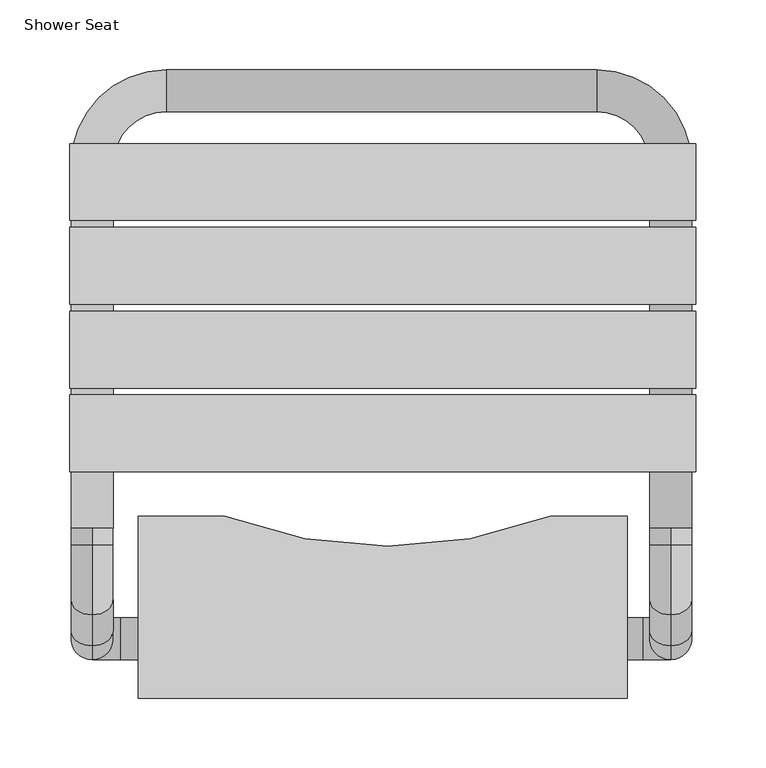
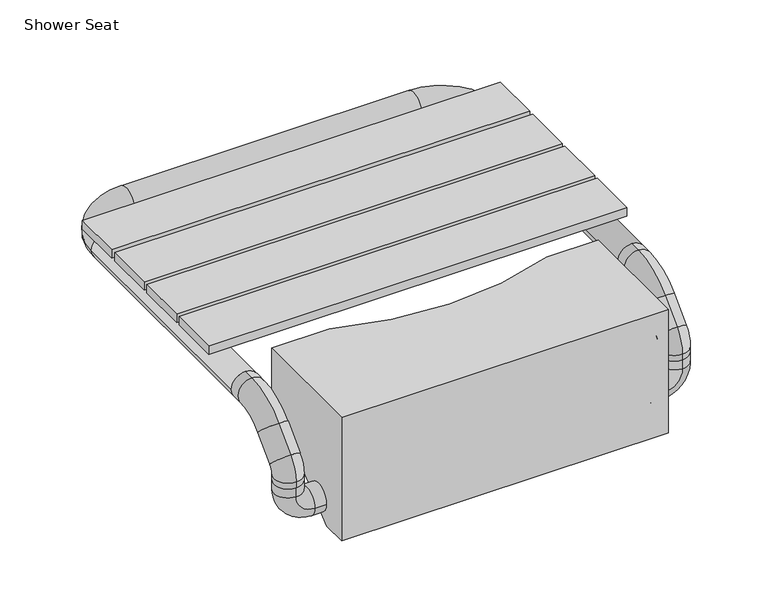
"""IFC4 building model written with IfcOpenShell, lengths in millimetres: flow terminal geometry, Shower - Disabled  Seat : Shower Seat."""

from ifc_helpers import new_model, si_unit, point, frame, origin, place, context, project, spatial, polyline, circle_curve, ellipse_curve, trimmed, outline, extrude, source, transform, mapped, element, save
from ifc_brep_helpers import plane_surface, cylinder_surface, revolved_surface, advanced_brep


def shower_seat_e35f25db(model_context):
    return source(origin(), model_context, "Body", "SolidModel", [
        extrude(outline(polyline([(224.1757274, 216.8780394), (224.1757274, 161.8780394), (-223.8242726, 161.8780394), (-223.8242726, 216.8780394), (224.1757274, 216.8780394)])), frame((0.0, 0.0, 570.4761319), z_axis=(0.0, 0.0, 1.0), x_axis=(1.0, 0.0, 0.0)), (0.0, 0.0, 1.0), 9.5238681),
        extrude(outline(polyline([(224.1757274, 276.8780394), (224.1757274, 221.8780394), (-223.8242726, 221.8780394), (-223.8242726, 276.8780394), (224.1757274, 276.8780394)])), frame((0.0, 0.0, 570.4761319), z_axis=(0.0, 0.0, 1.0), x_axis=(1.0, 0.0, 0.0)), (0.0, 0.0, 1.0), 9.5238681),
        extrude(outline(polyline([(224.1757274, 336.8780394), (224.1757274, 281.8780394), (-223.8242726, 281.8780394), (-223.8242726, 336.8780394), (224.1757274, 336.8780394)])), frame((0.0, 0.0, 570.4761319), z_axis=(0.0, 0.0, 1.0), x_axis=(1.0, 0.0, 0.0)), (0.0, 0.0, 1.0), 9.5238681),
        extrude(outline(polyline([(224.1757274, 396.5053839), (224.1757274, 341.8780394), (-223.8242726, 341.8780394), (-223.8242726, 396.5053839), (224.1757274, 396.5053839)])), frame((0.0, 0.0, 570.4761319), z_axis=(0.0, 0.0, 1.0), x_axis=(1.0, 0.0, 0.0)), (0.0, 0.0, 1.0), 9.5238681),
        advanced_brep(
        [(174.950484, 0.0, 440.0), (174.950484, 27.6199754, 440.0), (174.950484, 39.8251892, 450.2413904), (174.950484, 27.5053839, 465.0), (174.950484, 57.505188, 465.0766709), (174.950484, 130.0, 525.9070409), (174.950484, 130.0, 580.0), (174.950484, 0.0, 580.0), (-174.950484, 0.0, 440.0), (-174.950484, 0.0, 580.0), (-174.950484, 130.0, 580.0), (-174.950484, 130.0, 525.9070409), (-174.950484, 57.505188, 465.0766709), (-174.950484, 27.5053839, 465.0), (-174.950484, 39.8251892, 450.2413904), (-174.950484, 27.6199754, 440.0), (119.8551, 130.0, 525.9070409), (-112.9496549, 130.0, 525.9070409), (119.8551, 130.0, 580.0), (-112.9496549, 130.0, 580.0), (-207.950484, 27.5053839, 495.0), (-207.950484, 27.5053839, 485.0), (-207.950484, 57.5053839, 485.0), (-207.950484, 57.5053839, 495.0), (-187.950484, 27.5053839, 465.0), (-187.950484, 57.5053839, 465.0), (186.049516, 27.5053839, 465.0), (186.049516, 57.5053839, 465.0), (206.049516, 27.5053839, 485.0), (206.049516, 57.5053839, 485.0), (206.049516, 27.5053839, 495.0), (206.049516, 57.5053839, 495.0), (206.049516, 121.5053839, 540.0), (206.049516, 109.6499656, 540.0), (206.049516, 109.6499656, 570.0), (206.049516, 121.5053839, 570.0), (191.049516, 121.5053839, 555.0), (221.049516, 121.5053839, 555.0), (-207.950484, 121.5053839, 540.0), (-207.950484, 109.6499656, 540.0), (-207.950484, 109.6499656, 570.0), (-207.950484, 121.5053839, 570.0), (-222.950484, 121.5053839, 555.0), (-192.950484, 121.5053839, 555.0), (206.049516, 81.0496989, 527.9647053), (206.049516, 59.5994988, 548.9382342), (-207.950484, 81.0496989, 527.9647053), (-207.950484, 59.5994988, 548.9382342), (206.049516, 58.9303506, 505.3426446), (206.049516, 37.4801505, 526.3161735), (-207.950484, 58.9303506, 505.3426446), (-207.950484, 37.4801505, 526.3161735), (206.049516, 57.5053839, 501.8470564), (206.049516, 27.5053839, 501.8470564), (-207.950484, 57.5053839, 501.8470564), (-207.950484, 27.5053839, 501.8470564), (-192.950484, 381.5053839, 555.0), (-222.950484, 381.5053839, 555.0), (-154.950484, 419.5053839, 555.0), (-154.950484, 449.5053839, 555.0), (153.049516, 419.5053839, 555.0), (153.049516, 449.5053839, 555.0), (191.049516, 381.5053839, 555.0), (221.049516, 381.5053839, 555.0)],
        [
            (0, 1),
            (1, 2),
            (2, 3, circle_curve(frame((174.950484, 42.5053839, 465.0), z_axis=(-1.0, 0.0, 0.0), x_axis=(0.0, 1.0, 0.0)), 15.0)),
            (3, 4, circle_curve(frame((174.950484, 42.5053839, 465.0), z_axis=(-1.0, 0.0, 0.0), x_axis=(0.0, 1.0, 0.0)), 15.0)),
            (4, 5),
            (5, 6),
            (6, 7),
            (7, 0),
            (8, 9),
            (9, 10),
            (10, 11),
            (11, 12),
            (12, 13, circle_curve(frame((-174.950484, 42.5053839, 465.0), z_axis=(1.0, 0.0, 0.0), x_axis=(0.0, 1.0, 0.0)), 15.0)),
            (13, 14, circle_curve(frame((-174.950484, 42.5053839, 465.0), z_axis=(1.0, 0.0, 0.0), x_axis=(0.0, 1.0, 0.0)), 15.0)),
            (14, 15),
            (15, 8),
            (0, 8),
            (15, 1),
            (14, 2),
            (16, 5),
            (4, 12),
            (11, 17),
            (17, 16, ellipse_curve(frame((3.4527225, 439.0287342, 785.2129378), z_axis=(0.0, -0.6427876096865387, 0.7660444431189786), x_axis=(0.0, 0.7660444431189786, 0.6427876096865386)), 431.0775715, 330.2245782)),
            (16, 18),
            (18, 6),
            (10, 19),
            (19, 17),
            (18, 19, circle_curve(frame((3.4527225, 439.0287342, 580.0), z_axis=(0.0, 0.0, -1.0), x_axis=(1.0, 0.0, 0.0)), 330.2245782)),
            (9, 7),
            (20, 21),
            (21, 22, circle_curve(frame((-207.950484, 42.5053839, 485.0), z_axis=(0.0, 0.0, 1.0), x_axis=(0.0, 1.0, 0.0)), 15.0)),
            (22, 23),
            (23, 20, circle_curve(frame((-207.950484, 42.5053839, 495.0), z_axis=(0.0, 0.0, -1.0), x_axis=(0.0, 1.0, 0.0)), 15.0)),
            (20, 23, circle_curve(frame((-207.950484, 42.5053839, 495.0), z_axis=(0.0, 0.0, -1.0), x_axis=(0.0, 1.0, 0.0)), 15.0)),
            (22, 21, circle_curve(frame((-207.950484, 42.5053839, 485.0), z_axis=(0.0, 0.0, 1.0), x_axis=(0.0, 1.0, 0.0)), 15.0)),
            (21, 24, circle_curve(frame((-187.950484, 27.5053839, 485.0), z_axis=(0.0, -1.0, 0.0), x_axis=(-1.0, 0.0, 0.0)), 20.0)),
            (24, 25, circle_curve(frame((-187.950484, 42.5053839, 465.0), z_axis=(-1.0, 0.0, 0.0), x_axis=(0.0, 1.0, 0.0)), 15.0)),
            (25, 22, circle_curve(frame((-187.950484, 57.5053839, 485.0), z_axis=(0.0, 1.0, 0.0), x_axis=(-1.0, 0.0, 0.0)), 20.0)),
            (25, 24, circle_curve(frame((-187.950484, 42.5053839, 465.0), z_axis=(-1.0, 0.0, 0.0), x_axis=(0.0, 1.0, 0.0)), 15.0)),
            (24, 13),
            (12, 25),
            (26, 27, circle_curve(frame((186.049516, 42.5053839, 465.0), z_axis=(-1.0, 0.0, 0.0), x_axis=(0.0, 1.0, 0.0)), 15.0)),
            (27, 4),
            (3, 26),
            (27, 26, circle_curve(frame((186.049516, 42.5053839, 465.0), z_axis=(-1.0, 0.0, 0.0), x_axis=(0.0, 1.0, 0.0)), 15.0)),
            (26, 28, circle_curve(frame((186.049516, 27.5053839, 485.0), z_axis=(0.0, -1.0, 0.0), x_axis=(0.0, 0.0, -1.0)), 20.0)),
            (28, 29, circle_curve(frame((206.049516, 42.5053839, 485.0), z_axis=(0.0, 0.0, -1.0), x_axis=(0.0, 1.0, 0.0)), 15.0)),
            (29, 27, circle_curve(frame((186.049516, 57.5053839, 485.0), z_axis=(0.0, 1.0, 0.0), x_axis=(0.0, 0.0, -1.0)), 20.0)),
            (29, 28, circle_curve(frame((206.049516, 42.5053839, 485.0), z_axis=(0.0, 0.0, -1.0), x_axis=(0.0, 1.0, 0.0)), 15.0)),
            (28, 30),
            (30, 31, circle_curve(frame((206.049516, 42.5053839, 495.0), z_axis=(0.0, 0.0, -1.0), x_axis=(0.0, 1.0, 0.0)), 15.0)),
            (31, 29),
            (31, 30, circle_curve(frame((206.049516, 42.5053839, 495.0), z_axis=(0.0, 0.0, -1.0), x_axis=(0.0, 1.0, 0.0)), 15.0)),
            (32, 33),
            (33, 34, circle_curve(frame((206.049516, 109.6499656, 555.0), z_axis=(0.0, 1.0, 0.0), x_axis=(0.0, 0.0, 1.0)), 15.0)),
            (34, 35),
            (35, 36, circle_curve(frame((206.049516, 121.5053839, 555.0), z_axis=(0.0, -1.0, 0.0), x_axis=(0.0, 0.0, 1.0)), 15.0)),
            (36, 32, circle_curve(frame((206.049516, 121.5053839, 555.0), z_axis=(0.0, -1.0, 0.0), x_axis=(0.0, 0.0, 1.0)), 15.0)),
            (32, 37, circle_curve(frame((206.049516, 121.5053839, 555.0), z_axis=(0.0, -1.0, 0.0), x_axis=(0.0, 0.0, 1.0)), 15.0)),
            (37, 35, circle_curve(frame((206.049516, 121.5053839, 555.0), z_axis=(0.0, -1.0, 0.0), x_axis=(0.0, 0.0, 1.0)), 15.0)),
            (34, 33, circle_curve(frame((206.049516, 109.6499656, 555.0), z_axis=(0.0, 1.0, 0.0), x_axis=(0.0, 0.0, 1.0)), 15.0)),
            (38, 39),
            (39, 40, circle_curve(frame((-207.950484, 109.6499656, 555.0), z_axis=(0.0, 1.0, 0.0), x_axis=(0.0, 0.0, 1.0)), 15.0)),
            (40, 41),
            (41, 42, circle_curve(frame((-207.950484, 121.5053839, 555.0), z_axis=(0.0, -1.0, 0.0), x_axis=(0.0, 0.0, 1.0)), 15.0)),
            (42, 38, circle_curve(frame((-207.950484, 121.5053839, 555.0), z_axis=(0.0, -1.0, 0.0), x_axis=(0.0, 0.0, 1.0)), 15.0)),
            (38, 43, circle_curve(frame((-207.950484, 121.5053839, 555.0), z_axis=(0.0, -1.0, 0.0), x_axis=(0.0, 0.0, 1.0)), 15.0)),
            (43, 41, circle_curve(frame((-207.950484, 121.5053839, 555.0), z_axis=(0.0, -1.0, 0.0), x_axis=(0.0, 0.0, 1.0)), 15.0)),
            (40, 39, circle_curve(frame((-207.950484, 109.6499656, 555.0), z_axis=(0.0, 1.0, 0.0), x_axis=(0.0, 0.0, 1.0)), 15.0)),
            (33, 44, circle_curve(frame((206.049516, 109.6499656, 500.0), z_axis=(1.0, 0.0, 0.0), x_axis=(0.0, 0.0, 1.0)), 40.0)),
            (44, 45, circle_curve(frame((206.049516, 70.3245988, 538.4514698), z_axis=(0.0, 0.6991176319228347, 0.7150066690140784), x_axis=(0.0, -0.7150066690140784, 0.6991176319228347)), 15.0)),
            (45, 34, circle_curve(frame((206.049516, 109.6499656, 500.0), z_axis=(-1.0, 0.0, 0.0), x_axis=(0.0, 0.0, 1.0)), 70.0)),
            (45, 44, circle_curve(frame((206.049516, 70.3245988, 538.4514698), z_axis=(0.0, 0.699117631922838, 0.7150066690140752), x_axis=(0.0, -0.7150066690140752, 0.699117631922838)), 15.0)),
            (39, 46, circle_curve(frame((-207.950484, 109.6499656, 500.0), z_axis=(1.0, 0.0, 0.0), x_axis=(0.0, 0.0, 1.0)), 40.0)),
            (46, 47, circle_curve(frame((-207.950484, 70.3245988, 538.4514698), z_axis=(0.0, 0.6991176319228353, 0.7150066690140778), x_axis=(0.0, -0.7150066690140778, 0.6991176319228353)), 15.0)),
            (47, 40, circle_curve(frame((-207.950484, 109.6499656, 500.0), z_axis=(-1.0, 0.0, 0.0), x_axis=(0.0, 0.0, 1.0)), 70.0)),
            (47, 46, circle_curve(frame((-207.950484, 70.3245988, 538.4514698), z_axis=(0.0, 0.6991176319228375, 0.7150066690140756), x_axis=(0.0, -0.7150066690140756, 0.6991176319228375)), 15.0)),
            (44, 48),
            (48, 49, circle_curve(frame((206.049516, 48.2052506, 515.829409), z_axis=(0.0, 0.6991176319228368, 0.7150066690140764), x_axis=(0.0, -0.7150066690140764, 0.6991176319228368)), 15.0)),
            (49, 45),
            (49, 48, circle_curve(frame((206.049516, 48.2052506, 515.829409), z_axis=(0.0, 0.6991176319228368, 0.7150066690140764), x_axis=(0.0, -0.7150066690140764, 0.6991176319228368)), 15.0)),
            (46, 50),
            (50, 51, circle_curve(frame((-207.950484, 48.2052506, 515.829409), z_axis=(0.0, 0.6991176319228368, 0.7150066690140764), x_axis=(0.0, -0.7150066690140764, 0.6991176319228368)), 15.0)),
            (51, 47),
            (51, 50, circle_curve(frame((-207.950484, 48.2052506, 515.829409), z_axis=(0.0, 0.6991176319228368, 0.7150066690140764), x_axis=(0.0, -0.7150066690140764, 0.6991176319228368)), 15.0)),
            (48, 52, circle_curve(frame((206.049516, 62.5053839, 501.8470564), z_axis=(1.0, 0.0, 0.0), x_axis=(0.0, -0.7150066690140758, 0.6991176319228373)), 5.0)),
            (52, 53, circle_curve(frame((206.049516, 42.5053839, 501.8470564), z_axis=(0.0, 0.0, 0.9999999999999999), x_axis=(0.0, -0.9999999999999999, 0.0)), 15.0)),
            (53, 49, circle_curve(frame((206.049516, 62.5053839, 501.8470564), z_axis=(-1.0, 0.0, 0.0), x_axis=(0.0, -0.7150066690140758, 0.6991176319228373)), 35.0)),
            (53, 52, circle_curve(frame((206.049516, 42.5053839, 501.8470564), z_axis=(0.0, 0.0, 1.0), x_axis=(0.0, -1.0, 0.0)), 15.0)),
            (50, 54, circle_curve(frame((-207.950484, 62.5053839, 501.8470564), z_axis=(1.0, 0.0, 0.0), x_axis=(0.0, -0.7150066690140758, 0.6991176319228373)), 5.0)),
            (54, 55, circle_curve(frame((-207.950484, 42.5053839, 501.8470564), z_axis=(0.0, 0.0, 1.0), x_axis=(0.0, -1.0, 0.0)), 15.0)),
            (55, 51, circle_curve(frame((-207.950484, 62.5053839, 501.8470564), z_axis=(-1.0, 0.0, 0.0), x_axis=(0.0, -0.7150066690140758, 0.6991176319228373)), 35.0)),
            (55, 54, circle_curve(frame((-207.950484, 42.5053839, 501.8470564), z_axis=(0.0, 0.0, 1.0), x_axis=(0.0, -1.0, 0.0)), 15.0)),
            (52, 31),
            (30, 53),
            (54, 23),
            (20, 55),
            (43, 56),
            (56, 57, circle_curve(frame((-207.950484, 381.5053839, 555.0), z_axis=(0.0, -1.0, 0.0), x_axis=(-1.0, 0.0, 0.0)), 15.0)),
            (57, 42),
            (57, 56, circle_curve(frame((-207.950484, 381.5053839, 555.0), z_axis=(0.0, -1.0, 0.0), x_axis=(-1.0, 0.0, 0.0)), 15.0)),
            (56, 58, circle_curve(frame((-154.950484, 381.5053839, 555.0), z_axis=(0.0, 0.0, -1.0), x_axis=(-1.0, 0.0, 0.0)), 38.0)),
            (58, 59, circle_curve(frame((-154.950484, 434.5053839, 555.0), z_axis=(-1.0, 0.0, 0.0), x_axis=(0.0, 1.0, 0.0)), 15.0)),
            (59, 57, circle_curve(frame((-154.950484, 381.5053839, 555.0), z_axis=(0.0, 0.0, 1.0), x_axis=(-1.0, 0.0, 0.0)), 68.0)),
            (59, 58, circle_curve(frame((-154.950484, 434.5053839, 555.0), z_axis=(-1.0, 0.0, 0.0), x_axis=(0.0, 1.0, 0.0)), 15.0)),
            (58, 60),
            (60, 61, circle_curve(frame((153.049516, 434.5053839, 555.0), z_axis=(-1.0, 0.0, 0.0), x_axis=(0.0, 1.0, 0.0)), 15.0)),
            (61, 59),
            (61, 60, circle_curve(frame((153.049516, 434.5053839, 555.0), z_axis=(-1.0, 0.0, 0.0), x_axis=(0.0, 1.0, 0.0)), 15.0)),
            (60, 62, circle_curve(frame((153.049516, 381.5053839, 555.0), z_axis=(0.0, 0.0, -1.0), x_axis=(0.0, 1.0, 0.0)), 38.0)),
            (62, 63, circle_curve(frame((206.049516, 381.5053839, 555.0), z_axis=(0.0, 1.0, 0.0), x_axis=(1.0, 0.0, 0.0)), 15.0)),
            (63, 61, circle_curve(frame((153.049516, 381.5053839, 555.0), z_axis=(0.0, 0.0, 1.0), x_axis=(0.0, 1.0, 0.0)), 68.0)),
            (63, 62, circle_curve(frame((206.049516, 381.5053839, 555.0), z_axis=(0.0, 1.0, 0.0), x_axis=(1.0, 0.0, 0.0)), 15.0)),
            (62, 36),
            (37, 63),
        ],
        [
            plane_surface(frame((174.950484, 0.0, 440.0), z_axis=(1.0, 0.0, 0.0), x_axis=(0.0, 1.0, 0.0))),
            plane_surface(frame((-174.950484, 0.0, 440.0), z_axis=(-1.0, 0.0, 0.0), x_axis=(0.0, -1.0, 0.0))),
            plane_surface(frame((174.950484, 0.0, 440.0), z_axis=(0.0, 0.0, -1.0), x_axis=(-1.0, 0.0, 0.0))),
            plane_surface(frame((174.950484, 27.6199754, 440.0), z_axis=(0.0, 0.6427876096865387, -0.7660444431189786), x_axis=(-1.0, 0.0, 0.0))),
            plane_surface(frame((174.950484, 130.0, 525.9070409), z_axis=(0.0, 1.0, 0.0), x_axis=(-1.0, 0.0, 0.0))),
            plane_surface(frame((174.950484, 130.0, 580.0), z_axis=(0.0, 0.0, 1.0), x_axis=(-1.0, 0.0, 0.0))),
            plane_surface(frame((174.950484, 0.0, 580.0), z_axis=(0.0, -1.0, 0.0), x_axis=(-1.0, 0.0, 0.0))),
            revolved_surface(polyline([(333.6773007, 439.0287342, 1062.304259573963), (333.6773007, 439.0287342, 508.12161602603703)]), (3.4527225, 439.0287342, 440.0), (0.0, 0.0, 1.0)),
            cylinder_surface(frame((-207.950484, 42.5053839, 495.0), z_axis=(0.0, 0.0, 1.0), x_axis=(0.0, 1.0, 0.0)), 15.0),
            revolved_surface(trimmed(ellipse_curve(frame((-207.950484, 42.5053839, 485.0), z_axis=(0.0, 0.0, 1.0), x_axis=(0.0, 1.0, 0.0)), 15.0, 15.0), [point((-207.950484, 27.5053839, 485.0))], [point((-207.950484, 57.5053839, 485.0))], True, "CARTESIAN"), (-187.950484, 42.5053839, 485.0), (0.0, -1.0, 0.0)),
            revolved_surface(trimmed(ellipse_curve(frame((-207.950484, 42.5053839, 485.0), z_axis=(0.0, 0.0, 1.0), x_axis=(0.0, 1.0, 0.0)), 15.0, 15.0), [point((-207.950484, 57.5053839, 485.0))], [point((-207.950484, 27.5053839, 485.0))], True, "CARTESIAN"), (-187.950484, 42.5053839, 485.0), (0.0, -1.0, 0.0)),
            cylinder_surface(frame((-187.950484, 42.5053839, 465.0), z_axis=(-1.0, 0.0, 0.0), x_axis=(0.0, 1.0, 0.0)), 15.0),
            revolved_surface(trimmed(ellipse_curve(frame((186.049516, 42.5053839, 465.0), z_axis=(-1.0, 0.0, 0.0), x_axis=(0.0, 1.0, 0.0)), 15.0, 15.0), [point((186.049516, 27.5053839, 465.0))], [point((186.049516, 57.5053839, 465.0))], True, "CARTESIAN"), (186.049516, 42.5053839, 485.0), (0.0, -1.0, 0.0)),
            revolved_surface(trimmed(ellipse_curve(frame((186.049516, 42.5053839, 465.0), z_axis=(-1.0, 0.0, 0.0), x_axis=(0.0, 1.0, 0.0)), 15.0, 15.0), [point((186.049516, 57.5053839, 465.0))], [point((186.049516, 27.5053839, 465.0))], True, "CARTESIAN"), (186.049516, 42.5053839, 485.0), (0.0, -1.0, 0.0)),
            cylinder_surface(frame((206.049516, 42.5053839, 485.0), z_axis=(0.0, 0.0, -1.0), x_axis=(0.0, 1.0, 0.0)), 15.0),
            cylinder_surface(frame((206.049516, 121.5053839, 555.0), z_axis=(0.0, 1.0, 0.0), x_axis=(0.0, 0.0, 1.0)), 15.0),
            cylinder_surface(frame((-207.950484, 121.5053839, 555.0), z_axis=(0.0, 1.0, 0.0), x_axis=(0.0, 0.0, 1.0)), 15.0),
            revolved_surface(trimmed(ellipse_curve(frame((206.049516, 109.6499656, 555.0), z_axis=(0.0, 1.0, 0.0), x_axis=(0.0, 0.0, 1.0)), 15.0, 15.0), [point((206.049516, 109.6499656, 540.0))], [point((206.049516, 109.6499656, 570.0))], True, "CARTESIAN"), (206.049516, 109.6499656, 500.0), (1.0, 0.0, 0.0)),
            revolved_surface(trimmed(ellipse_curve(frame((206.049516, 109.6499656, 555.0), z_axis=(0.0, 1.0, 0.0), x_axis=(0.0, 0.0, 1.0)), 15.0, 15.0), [point((206.049516, 109.6499656, 570.0))], [point((206.049516, 109.6499656, 540.0))], True, "CARTESIAN"), (206.049516, 109.6499656, 500.0), (1.0, 0.0, 0.0)),
            revolved_surface(trimmed(ellipse_curve(frame((-207.950484, 109.6499656, 555.0), z_axis=(0.0, 1.0, 0.0), x_axis=(0.0, 0.0, 1.0)), 15.0, 15.0), [point((-207.950484, 109.6499656, 540.0))], [point((-207.950484, 109.6499656, 570.0))], True, "CARTESIAN"), (206.049516, 109.6499656, 500.0), (1.0, 0.0, 0.0)),
            revolved_surface(trimmed(ellipse_curve(frame((-207.950484, 109.6499656, 555.0), z_axis=(0.0, 1.0, 0.0), x_axis=(0.0, 0.0, 1.0)), 15.0, 15.0), [point((-207.950484, 109.6499656, 570.0))], [point((-207.950484, 109.6499656, 540.0))], True, "CARTESIAN"), (206.049516, 109.6499656, 500.0), (1.0, 0.0, 0.0)),
            cylinder_surface(frame((206.049516, 70.3245988, 538.4514698), z_axis=(0.0, 0.6991176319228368, 0.7150066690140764), x_axis=(0.0, -0.7150066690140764, 0.6991176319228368)), 15.0),
            cylinder_surface(frame((-207.950484, 70.3245988, 538.4514698), z_axis=(0.0, 0.6991176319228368, 0.7150066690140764), x_axis=(0.0, -0.7150066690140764, 0.6991176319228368)), 15.0),
            revolved_surface(trimmed(ellipse_curve(frame((206.049516, 48.2052506, 515.829409), z_axis=(0.0, 0.6991176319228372, 0.715006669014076), x_axis=(0.0, -0.715006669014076, 0.6991176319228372)), 15.0, 15.0), [point((206.049516, 58.9303506, 505.3426446))], [point((206.049516, 37.4801505, 526.3161735))], True, "CARTESIAN"), (206.049516, 62.5053839, 501.8470564), (1.0, 0.0, 0.0)),
            revolved_surface(trimmed(ellipse_curve(frame((206.049516, 48.2052506, 515.829409), z_axis=(0.0, 0.6991176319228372, 0.715006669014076), x_axis=(0.0, -0.715006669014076, 0.6991176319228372)), 15.0, 15.0), [point((206.049516, 37.4801505, 526.3161735))], [point((206.049516, 58.9303506, 505.3426446))], True, "CARTESIAN"), (206.049516, 62.5053839, 501.8470564), (1.0, 0.0, 0.0)),
            revolved_surface(trimmed(ellipse_curve(frame((-207.950484, 48.2052506, 515.829409), z_axis=(0.0, 0.6991176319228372, 0.715006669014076), x_axis=(0.0, -0.715006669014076, 0.6991176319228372)), 15.0, 15.0), [point((-207.950484, 58.9303506, 505.3426446))], [point((-207.950484, 37.4801505, 526.3161735))], True, "CARTESIAN"), (206.049516, 62.5053839, 501.8470564), (1.0, 0.0, 0.0)),
            revolved_surface(trimmed(ellipse_curve(frame((-207.950484, 48.2052506, 515.829409), z_axis=(0.0, 0.6991176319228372, 0.715006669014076), x_axis=(0.0, -0.715006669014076, 0.6991176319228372)), 15.0, 15.0), [point((-207.950484, 37.4801505, 526.3161735))], [point((-207.950484, 58.9303506, 505.3426446))], True, "CARTESIAN"), (206.049516, 62.5053839, 501.8470564), (1.0, 0.0, 0.0)),
            cylinder_surface(frame((206.049516, 42.5053839, 501.8470564), z_axis=(0.0, 0.0, 1.0), x_axis=(0.0, -1.0, 0.0)), 15.0),
            cylinder_surface(frame((-207.950484, 42.5053839, 501.8470564), z_axis=(0.0, 0.0, 1.0), x_axis=(0.0, -1.0, 0.0)), 15.0),
            cylinder_surface(frame((-207.950484, 121.5053839, 555.0), z_axis=(0.0, -1.0, 0.0), x_axis=(-1.0, 0.0, 0.0)), 15.0),
            revolved_surface(trimmed(ellipse_curve(frame((-207.950484, 381.5053839, 555.0), z_axis=(0.0, -1.0, 0.0), x_axis=(-1.0, 0.0, 0.0)), 15.0, 15.0), [point((-192.950484, 381.5053839, 555.0))], [point((-222.950484, 381.5053839, 555.0))], True, "CARTESIAN"), (-154.950484, 381.5053839, 555.0), (0.0, 0.0, -1.0)),
            revolved_surface(trimmed(ellipse_curve(frame((-207.950484, 381.5053839, 555.0), z_axis=(0.0, -1.0, 0.0), x_axis=(-1.0, 0.0, 0.0)), 15.0, 15.0), [point((-222.950484, 381.5053839, 555.0))], [point((-192.950484, 381.5053839, 555.0))], True, "CARTESIAN"), (-154.950484, 381.5053839, 555.0), (0.0, 0.0, -1.0)),
            cylinder_surface(frame((-154.950484, 434.5053839, 555.0), z_axis=(-1.0, 0.0, 0.0), x_axis=(0.0, 1.0, 0.0)), 15.0),
            revolved_surface(trimmed(ellipse_curve(frame((153.049516, 434.5053839, 555.0), z_axis=(-1.0, 0.0, 0.0), x_axis=(0.0, 1.0, 0.0)), 15.0, 15.0), [point((153.049516, 419.5053839, 555.0))], [point((153.049516, 449.5053839, 555.0))], True, "CARTESIAN"), (153.049516, 381.5053839, 555.0), (0.0, 0.0, -1.0)),
            revolved_surface(trimmed(ellipse_curve(frame((153.049516, 434.5053839, 555.0), z_axis=(-1.0, 0.0, 0.0), x_axis=(0.0, 1.0, 0.0)), 15.0, 15.0), [point((153.049516, 449.5053839, 555.0))], [point((153.049516, 419.5053839, 555.0))], True, "CARTESIAN"), (153.049516, 381.5053839, 555.0), (0.0, 0.0, -1.0)),
            cylinder_surface(frame((206.049516, 381.5053839, 555.0), z_axis=(0.0, 1.0, 0.0), x_axis=(1.0, 0.0, 0.0)), 15.0),
        ],
        [
            (0, [[1, 2, 3, 4, 5, 6, 7, 8]]),
            (1, [[9, 10, 11, 12, 13, 14, 15, 16]]),
            (2, [[-1, 17, -16, 18]]),
            (3, [[-18, -15, 19, -2]]),
            (3, [[20, -5, 21, -12, 22, 23]]),
            (4, [[-6, -20, 24, 25]]),
            (4, [[-11, 26, 27, -22]]),
            (5, [[-7, -25, 28, -26, -10, 29]]),
            (6, [[-8, -29, -9, -17]]),
            (7, [[-23, -27, -28, -24]]),
            (8, [[30, 31, 32, 33]]),
            (8, [[-30, 34, -32, 35]]),
            (9, [[-31, 36, 37, 38]]),
            (10, [[-35, -38, 39, -36]]),
            (11, [[-37, 40, -13, 41]]),
            (11, [[42, 43, -4, 44]]),
            (11, [[-39, -41, -21, -43, 45, -44, -3, -19, -14, -40]]),
            (12, [[-42, 46, 47, 48]]),
            (13, [[-45, -48, 49, -46]]),
            (14, [[-47, 50, 51, 52]]),
            (14, [[-49, -52, 53, -50]]),
            (15, [[54, 55, 56, 57, 58]]),
            (15, [[-54, 59, 60, -56, 61]]),
            (16, [[62, 63, 64, 65, 66]]),
            (16, [[-62, 67, 68, -64, 69]]),
            (17, [[-55, 70, 71, 72]]),
            (18, [[-61, -72, 73, -70]]),
            (19, [[-63, 74, 75, 76]]),
            (20, [[-69, -76, 77, -74]]),
            (21, [[-71, 78, 79, 80]]),
            (21, [[-73, -80, 81, -78]]),
            (22, [[-75, 82, 83, 84]]),
            (22, [[-77, -84, 85, -82]]),
            (23, [[-79, 86, 87, 88]]),
            (24, [[-81, -88, 89, -86]]),
            (25, [[-83, 90, 91, 92]]),
            (26, [[-85, -92, 93, -90]]),
            (27, [[-87, 94, -51, 95]]),
            (27, [[-89, -95, -53, -94]]),
            (28, [[-91, 96, -34, 97]]),
            (28, [[-93, -97, -33, -96]]),
            (29, [[98, 99, 100, -65, -68]]),
            (29, [[-98, -67, -66, -100, 101]]),
            (30, [[-99, 102, 103, 104]]),
            (31, [[-101, -104, 105, -102]]),
            (32, [[-103, 106, 107, 108]]),
            (32, [[-105, -108, 109, -106]]),
            (33, [[-107, 110, 111, 112]]),
            (34, [[-109, -112, 113, -110]]),
            (35, [[-111, 114, -57, -60, 115]]),
            (35, [[-113, -115, -59, -58, -114]]),
        ],
    ),
    ])


if __name__ == "__main__":
    model = new_model("IFC4")
    model_context = context("Model", 3, world=origin())
    ifc_project = project(units=[si_unit("LENGTHUNIT", "METRE", prefix="MILLI")], contexts=[model_context])
    site = spatial("IfcSite", under=ifc_project)
    building = spatial("IfcBuilding", under=site)
    placement = place(None, origin())
    shower_seat_shape = shower_seat_e35f25db(model_context)
    element("IfcFlowTerminal", 1, ObjectType="Shower - Disabled  Seat : Shower Seat", at=placement, inside=building, context=model_context, shape_type="MappedRepresentation", body=[
        mapped(shower_seat_shape, transform((0.0, 0.0, 0.0), x_axis=(1.0, 0.0, 0.0), y_axis=(0.0, 1.0, 0.0), z_axis=(0.0, 0.0, 1.0))),
    ])
    save(model, "model.ifc")
